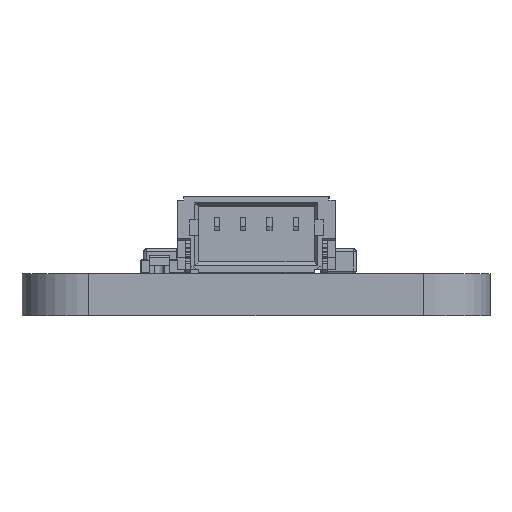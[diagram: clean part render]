
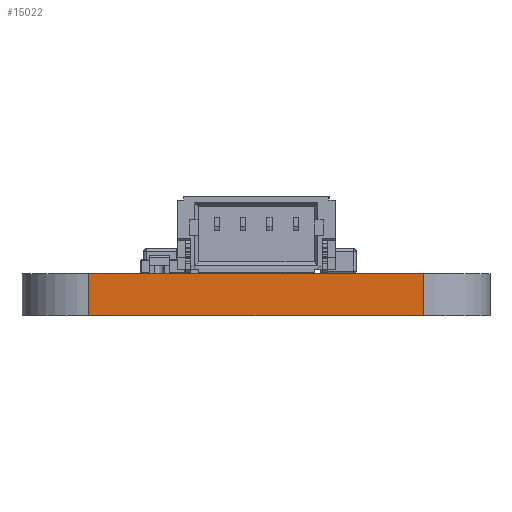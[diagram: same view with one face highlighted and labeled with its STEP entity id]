
A CAD part, left-side view. The second image highlights one B-rep face of the part: STEP entity #15022.
In plain terms, the highlighted planar face has unit normal (-1, 0, 0).
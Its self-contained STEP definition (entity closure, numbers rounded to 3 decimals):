
#821=PLANE('',#16099);
#1397=FACE_OUTER_BOUND('',#2272,.T.);
#2272=EDGE_LOOP('',(#10481,#10482,#10483,#10484));
#3205=LINE('',#21443,#4811);
#3206=LINE('',#21445,#4812);
#3207=LINE('',#21447,#4813);
#3208=LINE('',#21448,#4814);
#4811=VECTOR('',#17420,10.);
#4812=VECTOR('',#17421,10.);
#4813=VECTOR('',#17422,10.);
#4814=VECTOR('',#17423,10.);
#6810=VERTEX_POINT('',#21441);
#6811=VERTEX_POINT('',#21442);
#6812=VERTEX_POINT('',#21444);
#6813=VERTEX_POINT('',#21446);
#8251=EDGE_CURVE('',#6810,#6811,#3205,.T.);
#8252=EDGE_CURVE('',#6811,#6812,#3206,.T.);
#8253=EDGE_CURVE('',#6813,#6812,#3207,.T.);
#8254=EDGE_CURVE('',#6810,#6813,#3208,.T.);
#10481=ORIENTED_EDGE('',*,*,#8251,.T.);
#10482=ORIENTED_EDGE('',*,*,#8252,.T.);
#10483=ORIENTED_EDGE('',*,*,#8253,.F.);
#10484=ORIENTED_EDGE('',*,*,#8254,.F.);
#15022=ADVANCED_FACE('',(#1397),#821,.T.);
#16099=AXIS2_PLACEMENT_3D('',#21440,#17418,#17419);
#17418=DIRECTION('center_axis',(-1.,0.,0.));
#17419=DIRECTION('ref_axis',(0.,-1.,0.));
#17420=DIRECTION('',(0.,-1.,0.));
#17421=DIRECTION('',(0.,0.,1.));
#17422=DIRECTION('',(0.,-1.,0.));
#17423=DIRECTION('',(0.,0.,1.));
#21440=CARTESIAN_POINT('Origin',(-12.7,6.35,0.));
#21441=CARTESIAN_POINT('',(-12.7,6.35,0.));
#21442=CARTESIAN_POINT('',(-12.7,-6.35,0.));
#21443=CARTESIAN_POINT('',(-12.7,6.35,0.));
#21444=CARTESIAN_POINT('',(-12.7,-6.35,1.6));
#21445=CARTESIAN_POINT('',(-12.7,-6.35,0.));
#21446=CARTESIAN_POINT('',(-12.7,6.35,1.6));
#21447=CARTESIAN_POINT('',(-12.7,6.35,1.6));
#21448=CARTESIAN_POINT('',(-12.7,6.35,0.));
